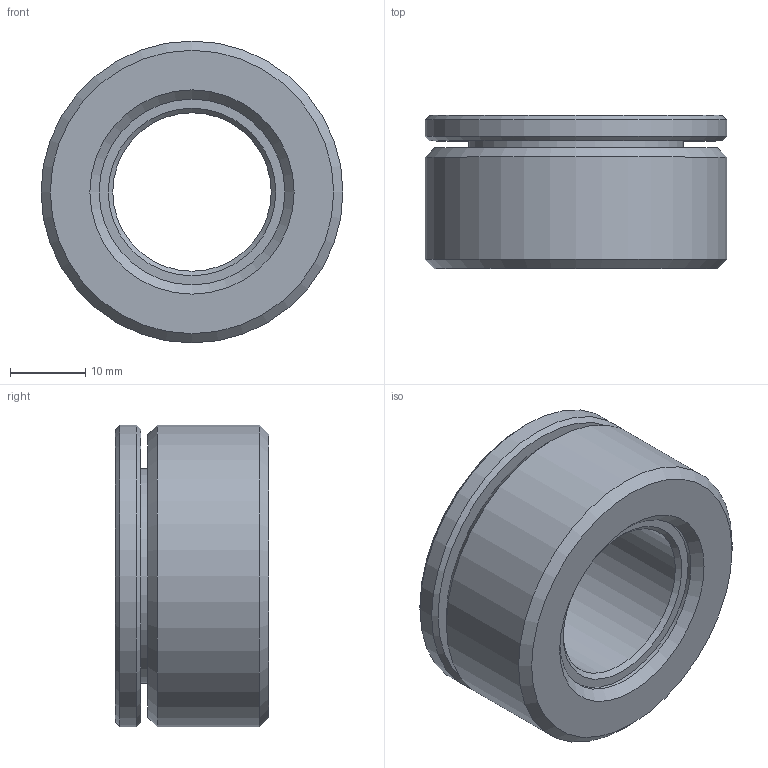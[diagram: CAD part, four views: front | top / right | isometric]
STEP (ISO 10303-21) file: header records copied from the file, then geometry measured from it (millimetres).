
FILE_DESCRIPTION( ( 'STEP AP203' ), '1' );
FILE_NAME( 'C:/Temp/Ganter_Step_05_03_2020/data/3_2/gn6319_1/gn_6319_1_st/Spherical washer GN 6319.1-40-ST.stp', '2020-03-13T05:32:16', ( 'License CC BY-ND 4.0' ), ( 'CADENAS' ), ' ', 'PARTsolutions', ' ' );
FILE_SCHEMA( ( 'CONFIG_CONTROL_DESIGN' ) );
Length unit declared in the file: millimetre
Products named in the file (1): _Spherical washer GN 6319.1-40-ST
Bounding box: 40 x 20.3 x 40 mm (x, y, z)
Volume: 14951.8 mm3; surface area: 8580.2 mm2
Topology: 1 solids, 1 shells, 23 faces, 39 edges, 23 vertices
Faces by surface type: cone 9, cylinder 7, plane 7
Full cylindrical faces by diameter (mm): 21 x1, 24.6 x1, 28.45 x1, 32.29 x1, 37.7 x1, 40 x2
Entity records: 512 total; most frequent: DIRECTION 94, CARTESIAN_POINT 70, AXIS2_PLACEMENT_3D 47, EDGE_LOOP 46, ORIENTED_EDGE 46, FACE_OUTER_BOUND 30, ADVANCED_FACE 23, EDGE_CURVE 23
